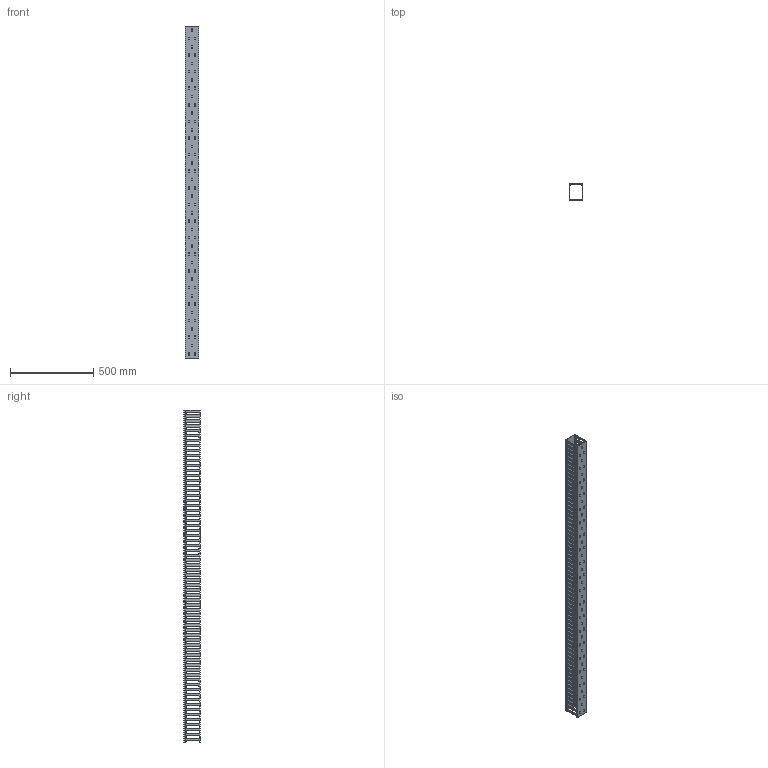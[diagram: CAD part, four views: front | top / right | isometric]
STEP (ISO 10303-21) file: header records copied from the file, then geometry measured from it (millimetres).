
FILE_DESCRIPTION (( 'STEP AP214' ), '1' );
FILE_NAME ('KD-810-20-T.STEP', '2020-02-19T01:49:38', ( '' ), ( '' ), 'SwSTEP 2.0', 'SolidWorks 2018', '' );
FILE_SCHEMA (( 'AUTOMOTIVE_DESIGN' ));
Length unit declared in the file: millimetre
Products named in the file (3): KD-810-20-T-body; KD-810-20-T; KD-86-20-cover
Assembly tree (2 placements, depth 2):
  KD-810-20-T
    KD-810-20-T-body
    KD-86-20-cover
Bounding box: 80 x 100.17 x 2000 mm (x, y, z)
Volume: 1027521.4 mm3; surface area: 1298209.5 mm2
Topology: 2 solids, 2 shells, 2095 faces, 7065 edges, 4710 vertices
Faces by surface type: plane 1214, cylinder 881
Entity records: 78291 total; most frequent: ORIENTED_EDGE 14130, CARTESIAN_POINT 13875, DIRECTION 13559, EDGE_CURVE 7065, VECTOR 4771, LINE 4771, VERTEX_POINT 4710, AXIS2_PLACEMENT_3D 4394
